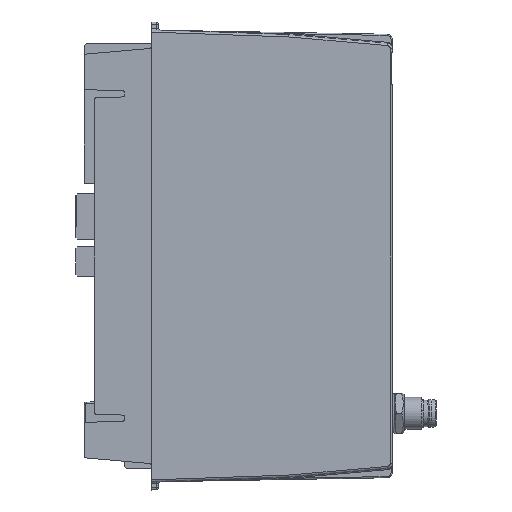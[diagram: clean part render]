
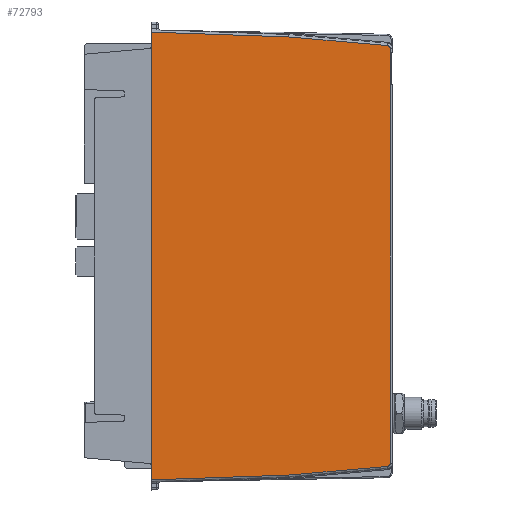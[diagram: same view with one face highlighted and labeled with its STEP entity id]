
A CAD part, left-side view. The second image highlights one B-rep face of the part: STEP entity #72793.
In plain terms, the highlighted planar face has unit normal (-1, -0.018, 0).
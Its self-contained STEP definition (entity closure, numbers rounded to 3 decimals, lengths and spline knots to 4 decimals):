
#1957=PLANE('',#76590);
#4772=FACE_OUTER_BOUND('',#8591,.T.);
#8591=EDGE_LOOP('',(#54675,#54676,#54677,#54678,#54679,#54680,#54681,#54682,
#54683,#54684));
#11832=ELLIPSE('',#76591,0.0315,0.0315);
#11833=ELLIPSE('',#76592,0.0315,0.0315);
#17695=LINE('',#110389,#25481);
#17696=LINE('',#110395,#25482);
#17697=LINE('',#110397,#25483);
#17698=LINE('',#110399,#25484);
#17699=LINE('',#110400,#25485);
#17700=LINE('',#110402,#25486);
#17701=LINE('',#110406,#25487);
#17702=LINE('',#110409,#25488);
#25481=VECTOR('',#87383,39.3701);
#25482=VECTOR('',#87390,39.3701);
#25483=VECTOR('',#87391,39.3701);
#25484=VECTOR('',#87392,39.3701);
#25485=VECTOR('',#87393,39.3701);
#25486=VECTOR('',#87394,39.3701);
#25487=VECTOR('',#87397,39.3701);
#25488=VECTOR('',#87400,39.3701);
#32257=VERTEX_POINT('',#110387);
#32258=VERTEX_POINT('',#110388);
#32259=VERTEX_POINT('',#110393);
#32260=VERTEX_POINT('',#110394);
#32261=VERTEX_POINT('',#110396);
#32262=VERTEX_POINT('',#110398);
#32263=VERTEX_POINT('',#110401);
#32264=VERTEX_POINT('',#110403);
#32265=VERTEX_POINT('',#110405);
#32266=VERTEX_POINT('',#110407);
#40300=EDGE_CURVE('',#32257,#32258,#17695,.T.);
#40303=EDGE_CURVE('',#32259,#32260,#17696,.T.);
#40304=EDGE_CURVE('',#32260,#32261,#17697,.T.);
#40305=EDGE_CURVE('',#32262,#32261,#17698,.T.);
#40306=EDGE_CURVE('',#32262,#32257,#17699,.T.);
#40307=EDGE_CURVE('',#32258,#32263,#17700,.T.);
#40308=EDGE_CURVE('',#32263,#32264,#11832,.T.);
#40309=EDGE_CURVE('',#32264,#32265,#17701,.T.);
#40310=EDGE_CURVE('',#32265,#32266,#11833,.T.);
#40311=EDGE_CURVE('',#32266,#32259,#17702,.T.);
#54675=ORIENTED_EDGE('',*,*,#40303,.T.);
#54676=ORIENTED_EDGE('',*,*,#40304,.T.);
#54677=ORIENTED_EDGE('',*,*,#40305,.F.);
#54678=ORIENTED_EDGE('',*,*,#40306,.T.);
#54679=ORIENTED_EDGE('',*,*,#40300,.T.);
#54680=ORIENTED_EDGE('',*,*,#40307,.T.);
#54681=ORIENTED_EDGE('',*,*,#40308,.T.);
#54682=ORIENTED_EDGE('',*,*,#40309,.T.);
#54683=ORIENTED_EDGE('',*,*,#40310,.T.);
#54684=ORIENTED_EDGE('',*,*,#40311,.T.);
#72793=ADVANCED_FACE('',(#4772),#1957,.T.);
#76590=AXIS2_PLACEMENT_3D('',#110392,#87388,#87389);
#76591=AXIS2_PLACEMENT_3D('',#110404,#87395,#87396);
#76592=AXIS2_PLACEMENT_3D('',#110408,#87398,#87399);
#87383=DIRECTION('',(0.017,-0.999,0.035));
#87388=DIRECTION('center_axis',(-1.,-0.017,
0.));
#87389=DIRECTION('ref_axis',(-0.017,1.,0.));
#87390=DIRECTION('',(-0.017,0.999,0.035));
#87391=DIRECTION('',(0.,0.,-1.));
#87392=DIRECTION('',(0.,0.,1.));
#87393=DIRECTION('',(0.,0.,-1.));
#87394=DIRECTION('',(0.017,-0.996,0.087));
#87395=DIRECTION('center_axis',(-1.,-0.017,
0.));
#87396=DIRECTION('ref_axis',(0.017,-1.,0.));
#87397=DIRECTION('',(0.,0.,1.));
#87398=DIRECTION('center_axis',(-1.,-0.017,
0.));
#87399=DIRECTION('ref_axis',(0.017,-1.,0.));
#87400=DIRECTION('',(-0.017,0.996,0.087));
#110387=CARTESIAN_POINT('',(-0.0227,-0.8686,-4.2421));
#110388=CARTESIAN_POINT('',(0.0007,-2.2063,-4.1954));
#110389=CARTESIAN_POINT('',(-0.0282,-0.5512,-4.2532));
#110392=CARTESIAN_POINT('Origin',(-0.0295,-0.4749,
-2.0669));
#110393=CARTESIAN_POINT('',(0.0007,-2.2063,0.0616));
#110394=CARTESIAN_POINT('',(-0.0227,-0.8686,0.1083));
#110395=CARTESIAN_POINT('',(-0.0282,-0.5512,0.1194));
#110396=CARTESIAN_POINT('',(-0.0227,-0.8686,-0.0312));
#110397=CARTESIAN_POINT('',(-0.0227,-0.8686,0.128));
#110398=CARTESIAN_POINT('',(-0.0227,-0.8686,-4.1027));
#110399=CARTESIAN_POINT('',(-0.0227,-0.8686,-7.5932));
#110400=CARTESIAN_POINT('',(-0.0227,-0.8686,0.128));
#110401=CARTESIAN_POINT('',(0.0174,-3.163,-4.1117));
#110402=CARTESIAN_POINT('',(-0.0261,-0.6728,-4.3296));
#110403=CARTESIAN_POINT('',(0.0179,-3.1918,-4.0803));
#110404=CARTESIAN_POINT('Origin',(0.0173,-3.1603,-4.0803));
#110405=CARTESIAN_POINT('',(0.0179,-3.1918,-0.0535));
#110406=CARTESIAN_POINT('',(0.0179,-3.1918,-0.0535));
#110407=CARTESIAN_POINT('',(0.0174,-3.163,-0.0221));
#110408=CARTESIAN_POINT('Origin',(0.0173,-3.1603,
-0.0535));
#110409=CARTESIAN_POINT('',(-0.0261,-0.6728,0.1957));
